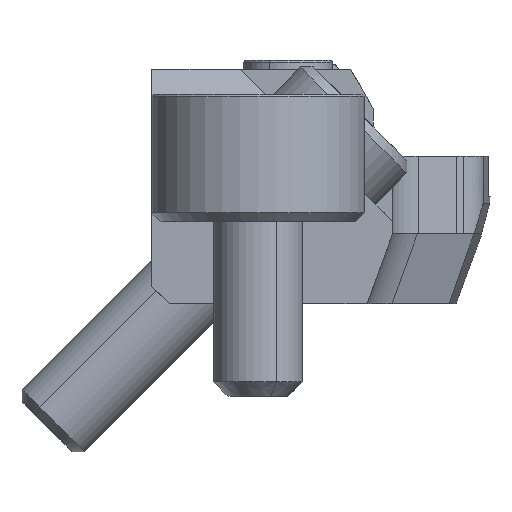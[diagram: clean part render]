
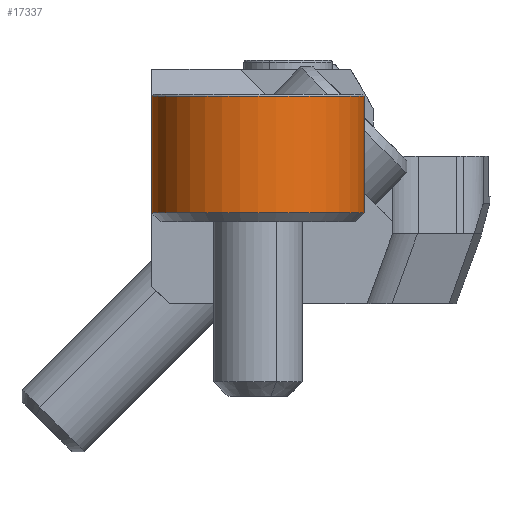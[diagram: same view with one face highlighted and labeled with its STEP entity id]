
A CAD part, left-side view. The second image highlights one B-rep face of the part: STEP entity #17337.
In plain terms, the highlighted cylindrical face has radius 6 mm (diameter 12 mm), a partial arc.
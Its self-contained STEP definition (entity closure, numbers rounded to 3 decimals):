
#209 = CARTESIAN_POINT ( 'NONE',  ( -3.9, -6., 5.137 ) ) ;
#218 = DIRECTION ( 'NONE',  ( 0., 0., 1. ) ) ;
#424 = VECTOR ( 'NONE', #15140, 1000. ) ;
#1747 = LINE ( 'NONE', #14734, #424 ) ;
#1760 = CYLINDRICAL_SURFACE ( 'NONE', #15684, 6. ) ;
#1917 = EDGE_CURVE ( 'NONE', #10863, #14767, #6014, .T. ) ;
#1943 = CARTESIAN_POINT ( 'NONE',  ( -3.9, -6., 46.818 ) ) ;
#2701 = ORIENTED_EDGE ( 'NONE', *, *, #5394, .F. ) ;
#2872 = LINE ( 'NONE', #10955, #9398 ) ;
#3993 = CARTESIAN_POINT ( 'NONE',  ( -3.9, -12., 11.737 ) ) ;
#4989 = ORIENTED_EDGE ( 'NONE', *, *, #16127, .T. ) ;
#5394 = EDGE_CURVE ( 'NONE', #10863, #6732, #1747, .T. ) ;
#5660 = DIRECTION ( 'NONE',  ( 0., 0., -1. ) ) ;
#6014 = CIRCLE ( 'NONE', #14817, 6. ) ;
#6732 = VERTEX_POINT ( 'NONE', #13716 ) ;
#6792 = EDGE_CURVE ( 'NONE', #14767, #12561, #2872, .T. ) ;
#7691 = CIRCLE ( 'NONE', #9967, 6. ) ;
#8404 = DIRECTION ( 'NONE',  ( 0., 0., 1. ) ) ;
#8791 = ORIENTED_EDGE ( 'NONE', *, *, #1917, .T. ) ;
#9398 = VECTOR ( 'NONE', #218, 1000. ) ;
#9967 = AXIS2_PLACEMENT_3D ( 'NONE', #16329, #5660, #15271 ) ;
#10863 = VERTEX_POINT ( 'NONE', #17239 ) ;
#10955 = CARTESIAN_POINT ( 'NONE',  ( -3.9, -12., 46.818 ) ) ;
#12499 = FACE_OUTER_BOUND ( 'NONE', #17086, .T. ) ;
#12561 = VERTEX_POINT ( 'NONE', #3993 ) ;
#13716 = CARTESIAN_POINT ( 'NONE',  ( -3.9, 0., 11.737 ) ) ;
#13922 = DIRECTION ( 'NONE',  ( 0., -1., 0. ) ) ;
#14734 = CARTESIAN_POINT ( 'NONE',  ( -3.9, 0., 46.818 ) ) ;
#14767 = VERTEX_POINT ( 'NONE', #16743 ) ;
#14817 = AXIS2_PLACEMENT_3D ( 'NONE', #209, #15030, #16632 ) ;
#15030 = DIRECTION ( 'NONE',  ( 0., 0., 1. ) ) ;
#15140 = DIRECTION ( 'NONE',  ( 0., 0., 1. ) ) ;
#15271 = DIRECTION ( 'NONE',  ( 0., -1., 0. ) ) ;
#15501 = ORIENTED_EDGE ( 'NONE', *, *, #6792, .T. ) ;
#15684 = AXIS2_PLACEMENT_3D ( 'NONE', #1943, #8404, #13922 ) ;
#16127 = EDGE_CURVE ( 'NONE', #12561, #6732, #7691, .T. ) ;
#16329 = CARTESIAN_POINT ( 'NONE',  ( -3.9, -6., 11.737 ) ) ;
#16632 = DIRECTION ( 'NONE',  ( 0., 1., 0. ) ) ;
#16743 = CARTESIAN_POINT ( 'NONE',  ( -3.9, -12., 5.137 ) ) ;
#17086 = EDGE_LOOP ( 'NONE', ( #2701, #8791, #15501, #4989 ) ) ;
#17239 = CARTESIAN_POINT ( 'NONE',  ( -3.9, 0., 5.137 ) ) ;
#17337 = ADVANCED_FACE ( 'NONE', ( #12499 ), #1760, .T. ) ;
